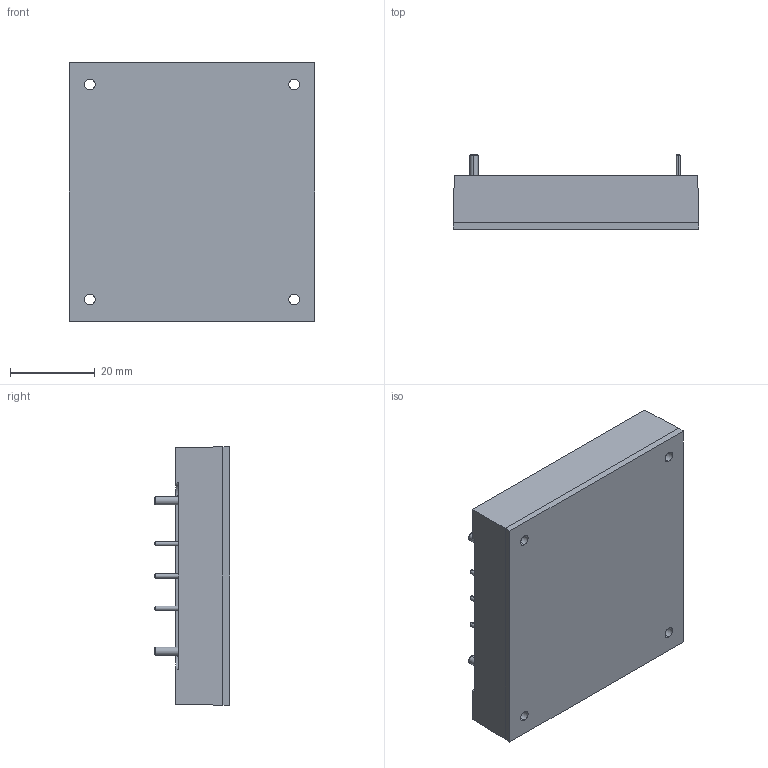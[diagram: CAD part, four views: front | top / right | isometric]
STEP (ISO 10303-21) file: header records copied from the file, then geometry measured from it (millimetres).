
FILE_DESCRIPTION (( 'STEP AP214' ), '1' );
FILE_NAME ('TEP 160 72 PCB-mount.STEP', '2022-05-18T10:14:27', ( '' ), ( '' ), 'SwSTEP 2.0', 'SolidWorks 2016', '' );
FILE_SCHEMA (( 'AUTOMOTIVE_DESIGN' ));
Length unit declared in the file: millimetre
Products named in the file (1): TEP 160 72 PCB-mount
Bounding box: 57.9 x 17.78 x 61 mm (x, y, z)
Volume: 44081.6 mm3; surface area: 10612.4 mm2
Topology: 1 solids, 1 shells, 92 faces, 204 edges, 128 vertices
Faces by surface type: cylinder 40, plane 32, cone 20
Entity records: 2892 total; most frequent: DIRECTION 490, CARTESIAN_POINT 425, ORIENTED_EDGE 408, EDGE_CURVE 204, AXIS2_PLACEMENT_3D 193, VERTEX_POINT 128, EDGE_LOOP 114, VECTOR 104
